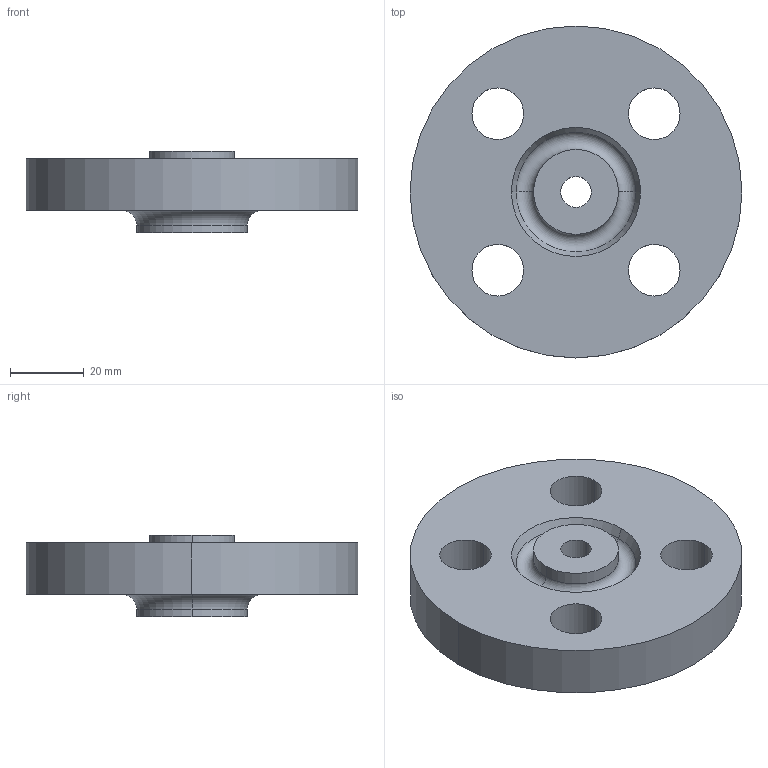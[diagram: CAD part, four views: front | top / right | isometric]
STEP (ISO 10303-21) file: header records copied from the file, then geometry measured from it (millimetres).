
FILE_DESCRIPTION (( 'STEP AP214' ), '1' );
FILE_NAME ('PN40 DN10 Type 13 - Type H Face.STEP', '2018-12-29T03:56:44', ( '' ), ( '' ), 'SwSTEP 2.0', 'SolidWorks 2019', '' );
FILE_SCHEMA (( 'AUTOMOTIVE_DESIGN' ));
Length unit declared in the file: millimetre
Products named in the file (1): PN40 DN10 Type 13 - Type H Face
Bounding box: 90 x 90 x 22 mm (x, y, z)
Volume: 83011 mm3; surface area: 19378.6 mm2
Topology: 1 solids, 1 shells, 26 faces, 60 edges, 38 vertices
Faces by surface type: cylinder 16, torus 4, plane 4, cone 2
Entity records: 812 total; most frequent: DIRECTION 156, CARTESIAN_POINT 125, ORIENTED_EDGE 120, AXIS2_PLACEMENT_3D 69, EDGE_CURVE 60, CIRCLE 42, VERTEX_POINT 38, EDGE_LOOP 38
